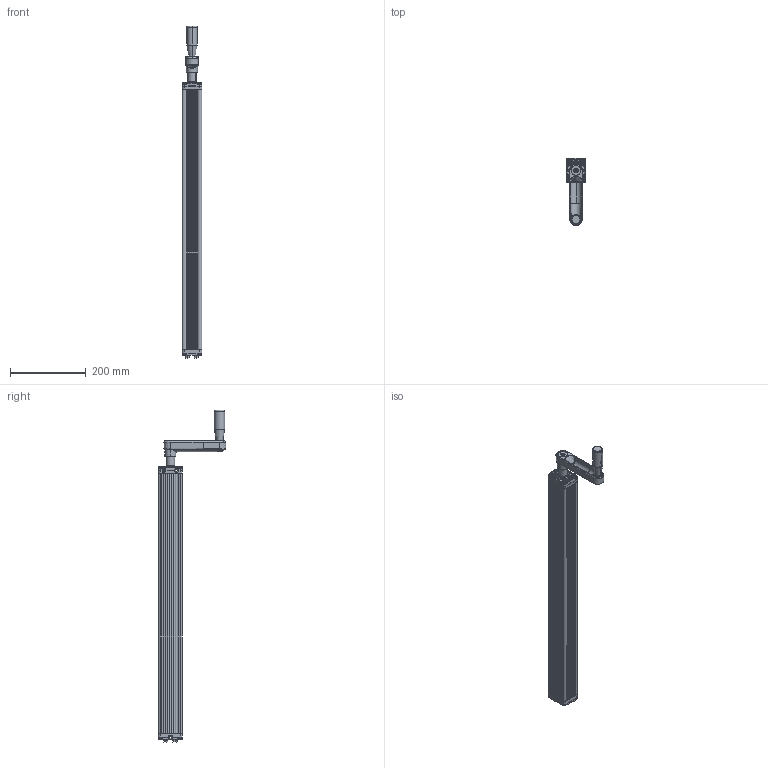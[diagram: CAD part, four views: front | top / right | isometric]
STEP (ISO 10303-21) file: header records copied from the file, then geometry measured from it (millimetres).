
FILE_DESCRIPTION (( 'STEP AP203' ), '1' );
FILE_NAME ('QXY30 Crank.STEP', '2014-01-22T20:59:00', ( '' ), ( '' ), 'SwSTEP 2.0', 'SolidWorks 2013', '' );
FILE_SCHEMA (( 'CONFIG_CONTROL_DESIGN' ));
Length unit declared in the file: millimetre
Products named in the file (1): QXY30 Crank
Bounding box: 52 x 178.32 x 878.84 mm (x, y, z)
Volume: 672009.6 mm3; surface area: 457837.1 mm2
Topology: 31 solids, 31 shells, 3408 faces, 8444 edges, 5143 vertices
Faces by surface type: cylinder 1333, plane 764, cone 476, torus 473, bspline 331, sphere 31
Entity records: 118174 total; most frequent: CARTESIAN_POINT 39462, ORIENTED_EDGE 16782, DIRECTION 16634, EDGE_CURVE 8391, AXIS2_PLACEMENT_3D 6761, VERTEX_POINT 5137, CIRCLE 3683, EDGE_LOOP 3558
